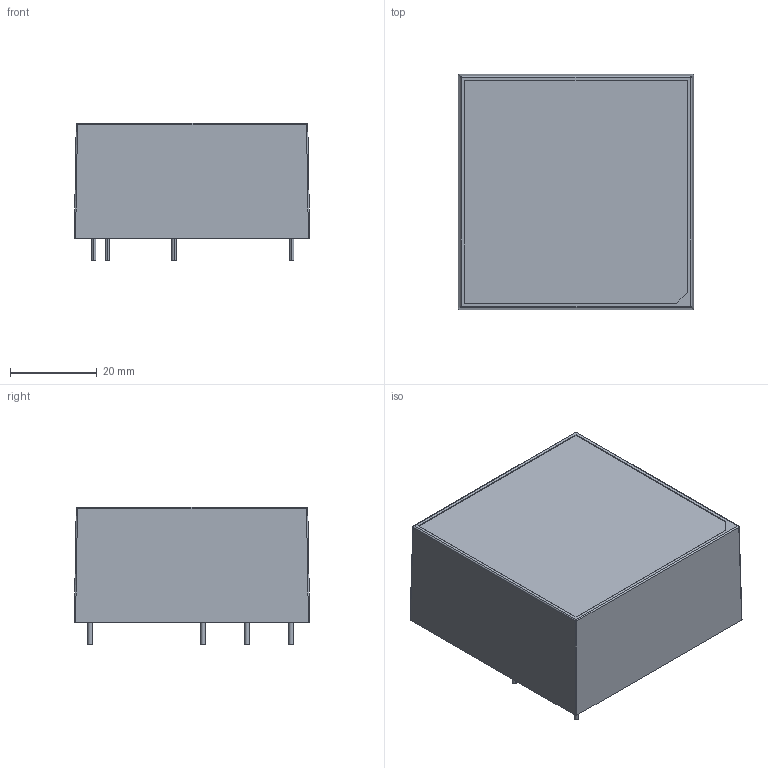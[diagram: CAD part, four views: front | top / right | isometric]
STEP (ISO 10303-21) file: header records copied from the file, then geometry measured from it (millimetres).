
FILE_DESCRIPTION (( 'STEP AP203' ), '1' );
FILE_NAME ('CFM41SXXX-E-1130805.STEP', '2024-08-06T03:05:41', ( 'cincon' ), ( '' ), 'SwSTEP 2.0', 'SolidWorks 2020', '' );
FILE_SCHEMA (( 'CONFIG_CONTROL_DESIGN' ));
Length unit declared in the file: millimetre
Products named in the file (11): CFM41SXXX-E-1130805; CFM40M UZ2 990210; CORE-10Amm; CFM41S_PCB; CFM41灌膠; CFM41S CASE; 變壓器; 電感; CFM40M CY1 990210; CFM41S-E PIN; CFM40M UZ1 990210
Assembly tree (18 placements, depth 2):
  CFM41SXXX-E-1130805
    CFM41S_PCB
    CFM40M CY1 990210  x4
    CFM40M UZ2 990210
    CORE-10Amm
    電感
    變壓器
    CFM41S-E PIN  x6
    CFM40M UZ1 990210
    CFM41S CASE
    CFM41灌膠
Bounding box: 54.37 x 54.37 x 31.7 mm (x, y, z)
Volume: 40119.7 mm3; surface area: 38323.9 mm2
Topology: 17 solids, 82 shells, 1917 faces, 5297 edges, 3524 vertices
Faces by surface type: cylinder 784, torus 570, plane 451, bspline 108, sphere 4
Entity records: 76769 total; most frequent: CARTESIAN_POINT 26170, DIRECTION 11418, ORIENTED_EDGE 10178, EDGE_CURVE 5093, AXIS2_PLACEMENT_3D 4962, VERTEX_POINT 3402, CIRCLE 3193, EDGE_LOOP 1987
